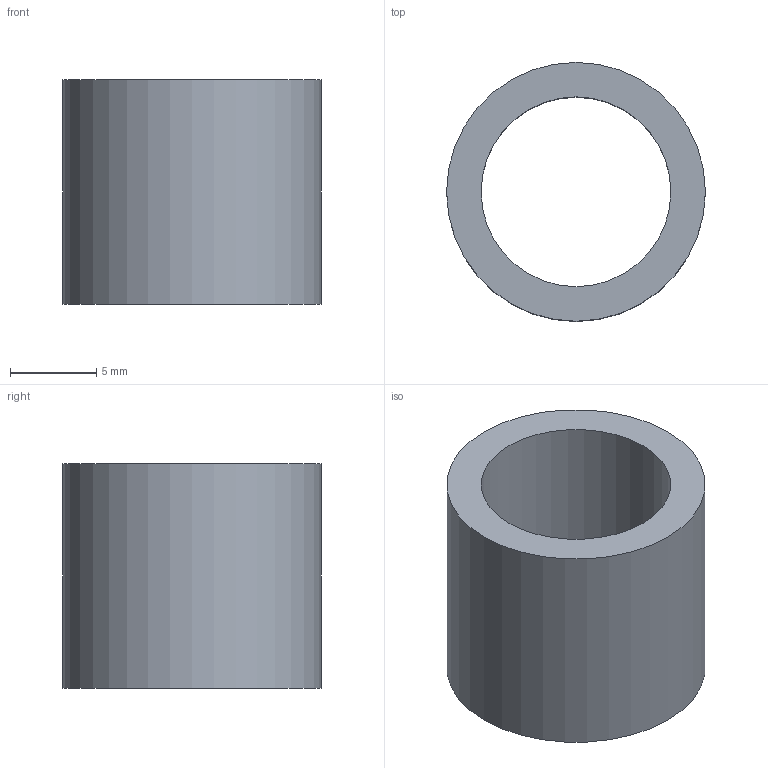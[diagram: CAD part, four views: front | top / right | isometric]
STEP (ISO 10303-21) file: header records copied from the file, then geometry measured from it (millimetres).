
FILE_DESCRIPTION(('FreeCAD Model'),'2;1');
FILE_NAME('Open CASCADE Shape Model','2026-11-20T08:25:38',('FreeCAD'),( 'FreeCAD'),'Open CASCADE STEP processor 7.8','FreeCAD','Unknown');
FILE_SCHEMA(('AUTOMOTIVE_DESIGN { 1 0 10303 214 1 1 1 1 }'));
Length unit declared in the file: millimetre
Products named in the file (1): Open CASCADE STEP translator 7.8 36
Bounding box: 15 x 15 x 13 mm (x, y, z)
Volume: 1061.9 mm3; surface area: 1225.2 mm2
Topology: 1 solids, 1 shells, 4 faces, 6 edges, 4 vertices
Faces by surface type: cylinder 2, plane 2
Full cylindrical faces by diameter (mm): 11 x1, 15 x1
Entity records: 108 total; most frequent: DIRECTION 20, CARTESIAN_POINT 15, ORIENTED_EDGE 12, AXIS2_PLACEMENT_3D 9, FACE_BOUND 6, EDGE_LOOP 6, EDGE_CURVE 6, ADVANCED_FACE 4
